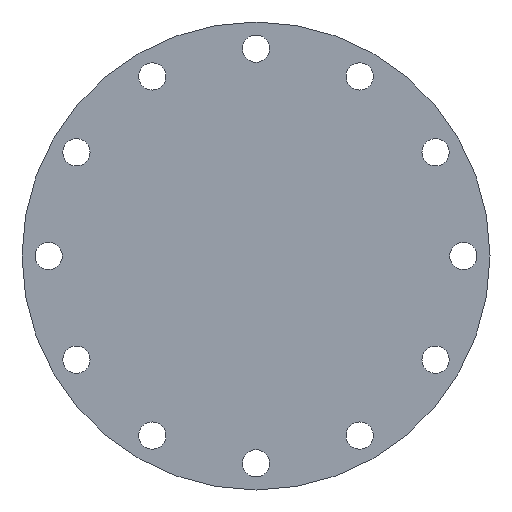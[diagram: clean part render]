
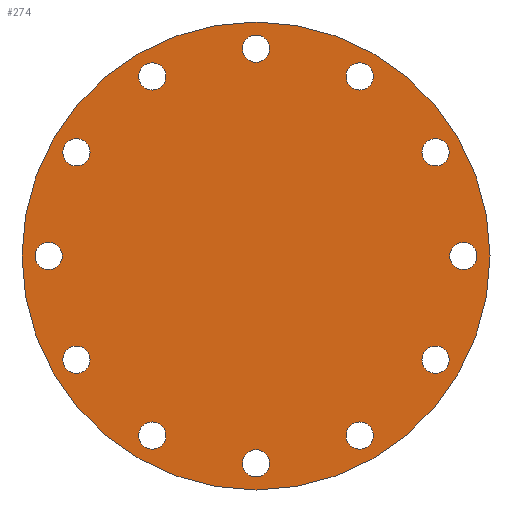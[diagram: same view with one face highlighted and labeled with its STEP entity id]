
A CAD part, front view. The second image highlights one B-rep face of the part: STEP entity #274.
In plain terms, the highlighted planar face has unit normal (0, -1, 0).
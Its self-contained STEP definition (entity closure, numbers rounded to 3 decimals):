
#13=PLANE($,#316);
#27=FACE_BOUND($,#91,.T.);
#28=FACE_BOUND($,#92,.T.);
#29=FACE_BOUND($,#93,.T.);
#30=FACE_BOUND($,#94,.T.);
#31=FACE_BOUND($,#95,.T.);
#32=FACE_BOUND($,#96,.T.);
#33=FACE_BOUND($,#97,.T.);
#34=FACE_BOUND($,#98,.T.);
#35=FACE_BOUND($,#99,.T.);
#36=FACE_BOUND($,#100,.T.);
#37=FACE_BOUND($,#101,.T.);
#38=FACE_BOUND($,#102,.T.);
#39=FACE_BOUND($,#103,.T.);
#91=EDGE_LOOP($,(#221));
#92=EDGE_LOOP($,(#222));
#93=EDGE_LOOP($,(#223));
#94=EDGE_LOOP($,(#224));
#95=EDGE_LOOP($,(#225));
#96=EDGE_LOOP($,(#226));
#97=EDGE_LOOP($,(#227));
#98=EDGE_LOOP($,(#228));
#99=EDGE_LOOP($,(#229));
#100=EDGE_LOOP($,(#230));
#101=EDGE_LOOP($,(#231));
#102=EDGE_LOOP($,(#232));
#103=EDGE_LOOP($,(#233));
#120=CIRCLE($,#282,11.5);
#122=CIRCLE($,#285,11.5);
#124=CIRCLE($,#288,11.5);
#126=CIRCLE($,#291,11.5);
#128=CIRCLE($,#294,11.5);
#130=CIRCLE($,#297,11.5);
#132=CIRCLE($,#300,11.5);
#134=CIRCLE($,#303,11.5);
#136=CIRCLE($,#306,11.5);
#138=CIRCLE($,#309,11.5);
#140=CIRCLE($,#312,11.5);
#142=CIRCLE($,#315,11.5);
#143=CIRCLE($,#317,197.5);
#146=VERTEX_POINT($,#409);
#148=VERTEX_POINT($,#414);
#150=VERTEX_POINT($,#419);
#152=VERTEX_POINT($,#424);
#154=VERTEX_POINT($,#429);
#156=VERTEX_POINT($,#434);
#158=VERTEX_POINT($,#439);
#160=VERTEX_POINT($,#444);
#162=VERTEX_POINT($,#449);
#164=VERTEX_POINT($,#454);
#166=VERTEX_POINT($,#459);
#168=VERTEX_POINT($,#464);
#169=VERTEX_POINT($,#467);
#172=EDGE_CURVE($,#146,#146,#120,.T.);
#174=EDGE_CURVE($,#148,#148,#122,.T.);
#176=EDGE_CURVE($,#150,#150,#124,.T.);
#178=EDGE_CURVE($,#152,#152,#126,.T.);
#180=EDGE_CURVE($,#154,#154,#128,.T.);
#182=EDGE_CURVE($,#156,#156,#130,.T.);
#184=EDGE_CURVE($,#158,#158,#132,.T.);
#186=EDGE_CURVE($,#160,#160,#134,.T.);
#188=EDGE_CURVE($,#162,#162,#136,.T.);
#190=EDGE_CURVE($,#164,#164,#138,.T.);
#192=EDGE_CURVE($,#166,#166,#140,.T.);
#194=EDGE_CURVE($,#168,#168,#142,.T.);
#195=EDGE_CURVE($,#169,#169,#143,.T.);
#221=ORIENTED_EDGE($,*,*,#172,.T.);
#222=ORIENTED_EDGE($,*,*,#174,.T.);
#223=ORIENTED_EDGE($,*,*,#176,.T.);
#224=ORIENTED_EDGE($,*,*,#178,.T.);
#225=ORIENTED_EDGE($,*,*,#180,.T.);
#226=ORIENTED_EDGE($,*,*,#182,.T.);
#227=ORIENTED_EDGE($,*,*,#184,.T.);
#228=ORIENTED_EDGE($,*,*,#186,.T.);
#229=ORIENTED_EDGE($,*,*,#188,.T.);
#230=ORIENTED_EDGE($,*,*,#190,.T.);
#231=ORIENTED_EDGE($,*,*,#192,.T.);
#232=ORIENTED_EDGE($,*,*,#194,.T.);
#233=ORIENTED_EDGE($,*,*,#195,.F.);
#274=ADVANCED_FACE($,(#27,#28,#29,#30,#31,#32,#33,#34,#35,#36,#37,#38,#39),
#13,.T.);
#282=AXIS2_PLACEMENT_3D($,#410,#327,#328);
#285=AXIS2_PLACEMENT_3D($,#415,#333,#334);
#288=AXIS2_PLACEMENT_3D($,#420,#339,#340);
#291=AXIS2_PLACEMENT_3D($,#425,#345,#346);
#294=AXIS2_PLACEMENT_3D($,#430,#351,#352);
#297=AXIS2_PLACEMENT_3D($,#435,#357,#358);
#300=AXIS2_PLACEMENT_3D($,#440,#363,#364);
#303=AXIS2_PLACEMENT_3D($,#445,#369,#370);
#306=AXIS2_PLACEMENT_3D($,#450,#375,#376);
#309=AXIS2_PLACEMENT_3D($,#455,#381,#382);
#312=AXIS2_PLACEMENT_3D($,#460,#387,#388);
#315=AXIS2_PLACEMENT_3D($,#465,#393,#394);
#316=AXIS2_PLACEMENT_3D($,#466,#395,#396);
#317=AXIS2_PLACEMENT_3D($,#468,#397,#398);
#327=DIRECTION('center_axis',(0.,1.,0.));
#328=DIRECTION('ref_axis',(0.866,0.,0.5));
#333=DIRECTION('center_axis',(0.,1.,0.));
#334=DIRECTION('ref_axis',(0.5,0.,0.866));
#339=DIRECTION('center_axis',(0.,1.,0.));
#340=DIRECTION('ref_axis',(0.,0.,1.));
#345=DIRECTION('center_axis',(0.,1.,0.));
#346=DIRECTION('ref_axis',(-0.5,0.,0.866));
#351=DIRECTION('center_axis',(0.,1.,0.));
#352=DIRECTION('ref_axis',(-0.866,0.,0.5));
#357=DIRECTION('center_axis',(0.,1.,0.));
#358=DIRECTION('ref_axis',(-1.,0.,0.));
#363=DIRECTION('center_axis',(0.,1.,0.));
#364=DIRECTION('ref_axis',(-0.866,0.,-0.5));
#369=DIRECTION('center_axis',(0.,1.,0.));
#370=DIRECTION('ref_axis',(-0.5,0.,-0.866));
#375=DIRECTION('center_axis',(0.,1.,0.));
#376=DIRECTION('ref_axis',(0.,0.,-1.));
#381=DIRECTION('center_axis',(0.,1.,0.));
#382=DIRECTION('ref_axis',(0.5,0.,-0.866));
#387=DIRECTION('center_axis',(0.,1.,0.));
#388=DIRECTION('ref_axis',(0.866,0.,-0.5));
#393=DIRECTION('center_axis',(0.,1.,0.));
#394=DIRECTION('ref_axis',(1.,0.,0.));
#395=DIRECTION('center_axis',(0.,-1.,0.));
#396=DIRECTION('ref_axis',(0.,0.,-1.));
#397=DIRECTION('center_axis',(0.,1.,0.));
#398=DIRECTION('ref_axis',(-1.,0.,0.));
#409=CARTESIAN_POINT('',(141.595,0.,81.75));
#410=CARTESIAN_POINT('Origin',(151.554,0.,87.5));
#414=CARTESIAN_POINT('',(81.75,0.,141.595));
#415=CARTESIAN_POINT('Origin',(87.5,0.,151.554));
#419=CARTESIAN_POINT('',(0.,0.,163.5));
#420=CARTESIAN_POINT('Origin',(0.,0.,175.));
#424=CARTESIAN_POINT('',(-81.75,0.,141.595));
#425=CARTESIAN_POINT('Origin',(-87.5,0.,151.554));
#429=CARTESIAN_POINT('',(-141.595,0.,81.75));
#430=CARTESIAN_POINT('Origin',(-151.554,0.,87.5));
#434=CARTESIAN_POINT('',(-163.5,0.,0.));
#435=CARTESIAN_POINT('Origin',(-175.,0.,0.));
#439=CARTESIAN_POINT('',(-141.595,0.,-81.75));
#440=CARTESIAN_POINT('Origin',(-151.554,0.,-87.5));
#444=CARTESIAN_POINT('',(-81.75,0.,-141.595));
#445=CARTESIAN_POINT('Origin',(-87.5,0.,-151.554));
#449=CARTESIAN_POINT('',(0.,0.,-163.5));
#450=CARTESIAN_POINT('Origin',(0.,0.,-175.));
#454=CARTESIAN_POINT('',(81.75,0.,-141.595));
#455=CARTESIAN_POINT('Origin',(87.5,0.,-151.554));
#459=CARTESIAN_POINT('',(141.595,0.,-81.75));
#460=CARTESIAN_POINT('Origin',(151.554,0.,-87.5));
#464=CARTESIAN_POINT('',(163.5,0.,0.));
#465=CARTESIAN_POINT('Origin',(175.,0.,0.));
#466=CARTESIAN_POINT('Origin',(-98.75,0.,0.));
#467=CARTESIAN_POINT('',(-197.5,0.,0.));
#468=CARTESIAN_POINT('Origin',(0.,0.,0.));
